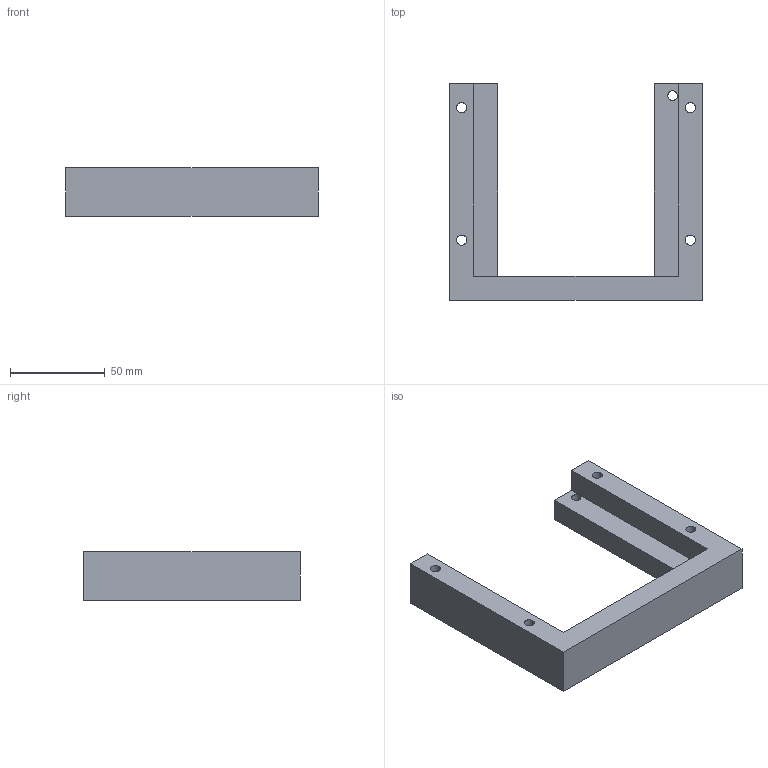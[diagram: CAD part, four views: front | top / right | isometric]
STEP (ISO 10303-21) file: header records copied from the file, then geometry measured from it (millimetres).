
FILE_DESCRIPTION (( 'STEP AP203' ), '1' );
FILE_NAME ('269-18-107.STEP', '2020-03-02T21:43:12', ( '' ), ( '' ), 'SwSTEP 2.0', 'SolidWorks 2017', '' );
FILE_SCHEMA (( 'CONFIG_CONTROL_DESIGN' ));
Length unit declared in the file: inch
Products named in the file (1): 269-18-107
Bounding box: 133.35 x 114.3 x 25.4 mm (x, y, z)
Volume: 138145.4 mm3; surface area: 33124.8 mm2
Topology: 1 solids, 1 shells, 26 faces, 70 edges, 46 vertices
Faces by surface type: plane 14, cylinder 10, cone 2
Entity records: 919 total; most frequent: DIRECTION 146, CARTESIAN_POINT 143, ORIENTED_EDGE 140, EDGE_CURVE 70, AXIS2_PLACEMENT_3D 49, LINE 48, VECTOR 48, VERTEX_POINT 46
